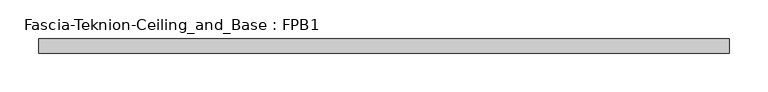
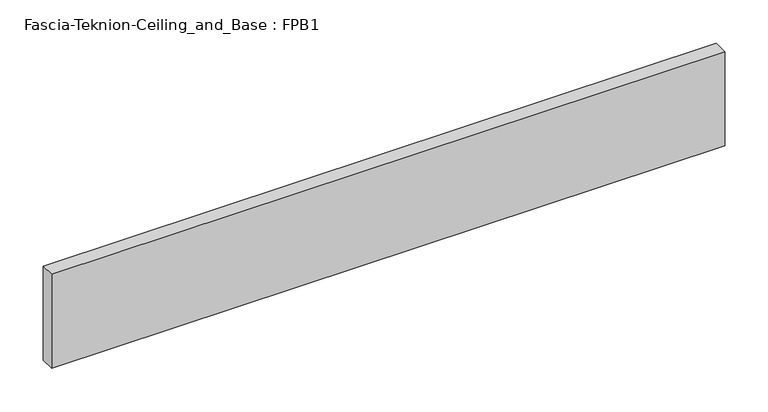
"""IFC4 building model written with IfcOpenShell, lengths in millimetres: proxy geometry, Fascia-Teknion-Ceiling_and_Base : FPB1."""

from ifc_helpers import new_model, si_unit, origin, origin_with_axes, place, context, project, spatial, polyline, outline, extrude, source, transform, mapped, element, save


def fascia_teknion_ceiling_and_base_fpb1_cfc01414(model_context):
    return source(origin(), model_context, "Body", "SweptSolid", [
        extrude(outline(polyline([(447.0300781, 0.0), (447.0300781, -19.05), (-447.0300781, -19.05), (-447.0300781, 0.0), (447.0300781, 0.0)])), origin_with_axes(), (0.0, 0.0, 1.0), 132.08),
    ])


if __name__ == "__main__":
    model = new_model("IFC4")
    model_context = context("Model", 3, world=origin())
    ifc_project = project(units=[si_unit("LENGTHUNIT", "METRE", prefix="MILLI")], contexts=[model_context])
    site = spatial("IfcSite", under=ifc_project)
    building = spatial("IfcBuilding", under=site)
    placement = place(None, origin())
    fascia_teknion_ceiling_and_base_fpb1_shape = fascia_teknion_ceiling_and_base_fpb1_cfc01414(model_context)
    element("IfcBuildingElementProxy", 1, Name="Fascia-Teknion-Ceiling_and_Base : FPB1", ObjectType="Fascia-Teknion-Ceiling_and_Base : FPB1", at=placement, inside=building, context=model_context, shape_type="MappedRepresentation", body=[
        mapped(fascia_teknion_ceiling_and_base_fpb1_shape, transform((0.0, 0.0, 0.0), x_axis=(1.0, 0.0, 0.0), y_axis=(0.0, 1.0, 0.0), z_axis=(0.0, 0.0, 1.0))),
    ])
    save(model, "model.ifc")
